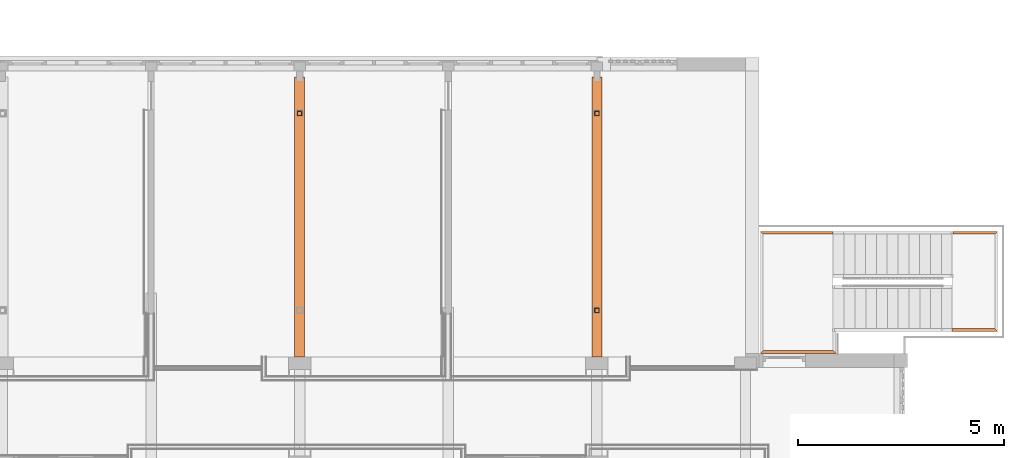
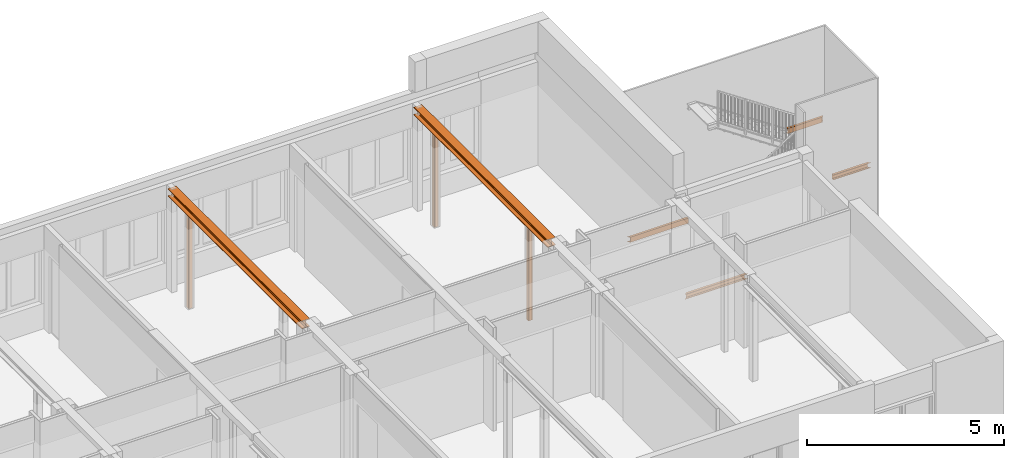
# One storey, part 107 of 117: 9 proxies.
"""IFC2X3 building model written with IfcOpenShell, lengths in millimetres."""

from ifc_helpers import new_model, entity, si_unit, converted_unit, derived_unit, money_unit, direction, frame, origin_with_axes, place, context, subcontext, project, spatial, faceted_brep, source, transform, mapped, material, type_object, type_shapes, element, save


model = new_model("IFC2X3")

# Units and contexts
model_context = context("Model", 3, precision=0.01, world=origin_with_axes(), true_north=direction((0.0, 1.0)))
body_context = subcontext(model_context, "Body", "Model", "MODEL_VIEW")
ifc_project = project(units=[si_unit("LENGTHUNIT", "METRE", prefix="MILLI"), si_unit("AREAUNIT", "SQUARE_METRE"), si_unit("VOLUMEUNIT", "CUBIC_METRE"), converted_unit("PLANEANGLEUNIT", "DEGREE", entity("IfcPlaneAngleMeasure", 0.0174532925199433), si_unit("PLANEANGLEUNIT", "RADIAN"), dimensions=[0, 0, 0, 0, 0, 0, 0]), money_unit("EUR"), converted_unit("TIMEUNIT", "Year", entity("IfcTimeMeasure", 31557600.0), si_unit("TIMEUNIT", "SECOND"), dimensions=[0, 0, 1, 0, 0, 0, 0]), si_unit("MASSUNIT", "GRAM", prefix="KILO"), si_unit("THERMODYNAMICTEMPERATUREUNIT", "DEGREE_CELSIUS"), si_unit("LUMINOUSINTENSITYUNIT", "LUMEN"), si_unit("ENERGYUNIT", "JOULE", prefix="MEGA"), derived_unit("THERMALCONDUCTANCEUNIT", [(si_unit("POWERUNIT", "WATT"), 1), (si_unit("LENGTHUNIT", "METRE"), -1), (si_unit("THERMODYNAMICTEMPERATUREUNIT", "KELVIN"), -1)]), derived_unit("SPECIFICHEATCAPACITYUNIT", [(si_unit("ENERGYUNIT", "JOULE"), 1), (si_unit("MASSUNIT", "GRAM", prefix="KILO"), -1), (si_unit("THERMODYNAMICTEMPERATUREUNIT", "KELVIN"), -1)]), derived_unit("MASSDENSITYUNIT", [(si_unit("MASSUNIT", "GRAM", prefix="KILO"), 1), (si_unit("VOLUMEUNIT", "CUBIC_METRE"), -1)])], contexts=[model_context])

# Site, building, storey
site_placement = place(None, origin_with_axes())
site = spatial("IfcSite", under=ifc_project, at=site_placement, Name="Site", CompositionType="ELEMENT")
building_placement = place(site_placement, origin_with_axes())
building = spatial("IfcBuilding", under=site, at=building_placement, Name="Naam gebouw", CompositionType="ELEMENT")
storey_placement = place(building_placement, frame((0.0, 0.0, 4150.0), z_axis=(0.0, 0.0, 1.0), x_axis=(1.0, 0.0, 0.0)))
storey = spatial("IfcBuildingStorey", under=building, at=storey_placement, Name="1e verdieping N", CompositionType="ELEMENT", Elevation=4150.0)

# Proxies
ifc_material = material(Name="Metaal - Staal AFW")
building_element_proxy_type_1 = type_object("IfcBuildingElementProxyType", Name="UPN balk 27", PredefinedType="NOTDEFINED")
shared_shape_1 = source(origin_with_axes(), body_context, "Body", "Brep", [
    faceted_brep([(0.0, 0.0, 160.0), (32.49999999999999, -32.5, 160.0), (1067.500000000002, -32.50000000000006, 160.0000000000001), (1067.500000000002, 32.49999999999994, 160.0000000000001), (-32.5, 32.5, 160.0), (0.0, 0.0, 149.5), (14.50000000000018, -14.5, 149.5), (19.75000000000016, -19.75, 148.0932667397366), (23.59326673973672, -23.59326673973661, 144.2500000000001), (24.99999999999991, -25.0, 139.0), (24.99999999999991, -25.0, 21.0), (23.59326673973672, -23.59326673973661, 15.75), (19.75000000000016, -19.75, 11.9067332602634), (14.50000000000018, -14.5, 10.49999999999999), (0.0, 0.0, 10.50000000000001), (-27.00000000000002, 27.00000000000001, 10.49999999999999), (-29.75000000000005, 29.75000000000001, 9.763139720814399), (-31.76313972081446, 31.76313972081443, 7.749999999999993), (-32.5, 32.5, 4.99999999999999), (-32.5, 32.5, 0.0), (0.0, 0.0, 0.0), (32.49999999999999, -32.5, 0.0), (-32.5, 32.5, 155.0), (-31.76313972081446, 31.76313972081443, 152.25), (-29.75000000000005, 29.75000000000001, 150.2368602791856), (-27.00000000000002, 27.00000000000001, 149.5), (1067.500000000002, -32.50000000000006, 0.0), (1067.500000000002, 29.74999999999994, 150.2368602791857), (1067.500000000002, 31.76313972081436, 152.2500000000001), (1067.500000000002, 32.49999999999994, 155.0000000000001), (1067.500000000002, 32.49999999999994, 0.0), (1067.500000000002, 32.49999999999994, 5.00000000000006), (1067.500000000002, 31.76313972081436, 7.750000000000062), (1067.500000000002, 29.74999999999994, 9.763139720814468), (1067.500000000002, 26.99999999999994, 10.50000000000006), (1067.500000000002, -14.50000000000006, 10.50000000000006), (1067.500000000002, -19.75000000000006, 11.90673326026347), (1067.500000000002, -23.59326673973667, 15.75000000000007), (1067.500000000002, -25.00000000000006, 21.00000000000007), (1067.500000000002, -25.00000000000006, 139.0000000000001), (1067.500000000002, -23.59326673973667, 144.2500000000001), (1067.500000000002, -19.75000000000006, 148.0932667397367), (1067.500000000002, -14.50000000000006, 149.5000000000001), (1067.500000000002, 26.99999999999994, 149.5000000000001)], [[[0, 1, 2, 3, 4]], [[5, 6, 7, 8, 9, 10, 11, 12, 13, 14, 15, 16, 17, 18, 19, 20, 21, 1, 0, 4, 22, 23, 24, 25]], [[1, 21, 26, 2]], [[27, 28, 29, 3, 2, 26, 30, 31, 32, 33, 34, 35, 36, 37, 38, 39, 40, 41, 42, 43]], [[4, 3, 29, 22]], [[6, 5, 25, 43, 42]], [[7, 6, 42, 41]], [[8, 7, 41, 40]], [[9, 8, 40, 39]], [[10, 9, 39, 38]], [[11, 10, 38, 37]], [[12, 11, 37, 36]], [[13, 12, 36, 35]], [[14, 13, 35, 34, 15]], [[15, 34, 33, 16]], [[16, 33, 32, 17]], [[17, 32, 31, 18]], [[18, 31, 30, 19]], [[21, 20, 19, 30, 26]], [[22, 29, 28, 23]], [[23, 28, 27, 24]], [[24, 27, 43, 25]]]),
])
proxy_1_placement = place(storey_placement, frame((60077.49999999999, 21228.4124251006, 1602.772280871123), z_axis=(0.0, 0.0, 1.0), x_axis=(-1.0, 0.0, 0.0)))
element("IfcBuildingElementProxy", 1, at=proxy_1_placement, inside=storey, type_object=building_element_proxy_type_1, material=ifc_material, Name="_Boom-x", context=body_context, shape_type="MappedRepresentation", body=[
    mapped(shared_shape_1, transform((0.0, 0.0, 0.0))),
])
shared_shape_2 = source(origin_with_axes(), body_context, "Body", "Brep", [
    faceted_brep([(0.0, 0.0, 160.0), (32.49999999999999, 32.5, 160.0), (-1047.5, 32.49999999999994, 160.0000000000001), (-1047.5, -32.50000000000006, 160.0000000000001), (-32.49999999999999, -32.5, 160.0), (0.0, 0.0, 149.5), (27.00000000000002, 27.00000000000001, 149.5), (29.75000000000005, 29.75000000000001, 150.2368602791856), (31.76313972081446, 31.76313972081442, 152.25), (32.49999999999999, 32.5, 155.0), (-32.49999999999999, -32.5, 0.0), (0.0, 0.0, 0.0), (32.49999999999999, 32.5, 0.0), (32.49999999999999, 32.5, 4.99999999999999), (31.76313972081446, 31.76313972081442, 7.749999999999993), (29.75000000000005, 29.75000000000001, 9.763139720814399), (27.00000000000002, 27.00000000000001, 10.49999999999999), (0.0, 0.0, 10.50000000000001), (-14.50000000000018, -14.5, 10.49999999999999), (-19.75000000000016, -19.75, 11.9067332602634), (-23.59326673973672, -23.59326673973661, 15.75), (-24.99999999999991, -25.0, 21.0), (-24.99999999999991, -25.0, 139.0), (-23.59326673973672, -23.59326673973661, 144.2500000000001), (-19.75000000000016, -19.75, 148.0932667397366), (-14.50000000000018, -14.5, 149.5), (-1047.5, 32.49999999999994, 155.0000000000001), (-1047.5, 29.74999999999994, 150.2368602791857), (-1047.5, 26.99999999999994, 149.5000000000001), (-1047.5, -14.50000000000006, 149.5000000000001), (-1047.5, -19.75000000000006, 148.0932667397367), (-1047.5, -23.59326673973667, 144.2500000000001), (-1047.5, -25.00000000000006, 139.0000000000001), (-1047.5, -25.00000000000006, 21.00000000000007), (-1047.5, -23.59326673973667, 15.75000000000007), (-1047.5, -19.75000000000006, 11.90673326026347), (-1047.5, -14.50000000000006, 10.50000000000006), (-1047.5, 26.99999999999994, 10.50000000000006), (-1047.5, 29.74999999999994, 9.763139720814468), (-1047.5, 31.76313972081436, 7.750000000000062), (-1047.5, 32.49999999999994, 5.00000000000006), (-1047.5, 32.49999999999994, 0.0), (-1047.5, -32.50000000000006, 0.0), (-1047.5, 31.76313972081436, 152.2500000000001)], [[[0, 1, 2, 3, 4]], [[5, 6, 7, 8, 9, 1, 0, 4, 10, 11, 12, 13, 14, 15, 16, 17, 18, 19, 20, 21, 22, 23, 24, 25]], [[1, 9, 26, 2]], [[27, 28, 29, 30, 31, 32, 33, 34, 35, 36, 37, 38, 39, 40, 41, 42, 3, 2, 26, 43]], [[4, 3, 42, 10]], [[25, 29, 28, 6, 5]], [[7, 6, 28, 27]], [[8, 7, 27, 43]], [[9, 8, 43, 26]], [[10, 42, 41, 12, 11]], [[13, 12, 41, 40]], [[14, 13, 40, 39]], [[15, 14, 39, 38]], [[16, 15, 38, 37]], [[17, 16, 37, 36, 18]], [[18, 36, 35, 19]], [[19, 35, 34, 20]], [[20, 34, 33, 21]], [[21, 33, 32, 22]], [[22, 32, 31, 23]], [[23, 31, 30, 24]], [[24, 30, 29, 25]]]),
])
proxy_2_placement = place(storey_placement, frame((60077.49999999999, 23583.4124251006, 1602.772280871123), z_axis=(0.0, 0.0, 1.0), x_axis=(1.0, 0.0, 0.0)))
element("IfcBuildingElementProxy", 2, at=proxy_2_placement, inside=storey, type_object=building_element_proxy_type_1, material=ifc_material, Name="_Boom-x", context=body_context, shape_type="MappedRepresentation", body=[
    mapped(shared_shape_2, transform((0.0, 0.0, 0.0))),
])
building_element_proxy_type_2 = type_object("IfcBuildingElementProxyType", Name="HEB balk 27", PredefinedType="NOTDEFINED")
shared_shape_3 = source(origin_with_axes(), body_context, "Body", "Brep", [
    faceted_brep([(0.0, -120.0, 0.0), (-6785.0, -120.0000000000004, 0.0), (-6785.0, 119.9999999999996, 0.0), (0.0, 120.0, 0.0), (0.0, -120.0, 17.0), (-6785.0, -120.0000000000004, 17.00000000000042), (-6785.0, -26.00000000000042, 17.00000000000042), (-6785.0, -15.50000000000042, 19.81346652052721), (-6785.0, -7.813466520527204, 27.50000000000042), (-6785.0, -5.000000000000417, 38.00000000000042), (-6785.0, -5.000000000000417, 202.0000000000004), (-6785.0, -7.813466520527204, 212.5000000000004), (-6785.0, -15.50000000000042, 220.1865334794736), (-6785.0, -26.00000000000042, 223.0000000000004), (-6785.0, -120.0000000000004, 223.0000000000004), (-6785.0, -120.0000000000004, 240.0000000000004), (-6785.0, 119.9999999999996, 240.0000000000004), (-6785.0, 119.9999999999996, 223.0000000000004), (-6785.0, 25.99999999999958, 223.0000000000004), (-6785.0, 15.49999999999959, 220.1865334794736), (-6785.0, 7.813466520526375, 212.5000000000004), (-6785.0, 4.999999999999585, 202.0000000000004), (-6785.0, 4.999999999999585, 38.00000000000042), (-6785.0, 7.813466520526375, 27.50000000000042), (-6785.0, 15.49999999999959, 19.81346652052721), (-6785.0, 25.99999999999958, 17.00000000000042), (-6785.0, 119.9999999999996, 17.00000000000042), (0.0, 120.0, 17.0), (0.0, 26.0, 17.0), (0.0, 15.5, 19.8134665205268), (0.0, 7.81346652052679, 27.5), (0.0, 5.000000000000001, 38.00000000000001), (0.0, 5.000000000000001, 202.0), (0.0, 7.81346652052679, 212.5), (0.0, 15.5, 220.1865334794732), (0.0, 26.0, 223.0), (0.0, 120.0, 223.0), (0.0, 120.0, 240.0), (0.0, -120.0, 240.0), (0.0, -120.0, 223.0), (0.0, -26.0, 223.0), (0.0, -15.5, 220.1865334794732), (0.0, -7.81346652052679, 212.5), (0.0, -5.000000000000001, 202.0), (0.0, -5.000000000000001, 38.00000000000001), (0.0, -7.81346652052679, 27.5), (0.0, -15.5, 19.8134665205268), (0.0, -26.0, 17.0)], [[[0, 1, 2, 3]], [[4, 5, 1, 0]], [[1, 5, 6, 7, 8, 9, 10, 11, 12, 13, 14, 15, 16, 17, 18, 19, 20, 21, 22, 23, 24, 25, 26, 2]], [[3, 2, 26, 27]], [[0, 3, 27, 28, 29, 30, 31, 32, 33, 34, 35, 36, 37, 38, 39, 40, 41, 42, 43, 44, 45, 46, 47, 4]], [[47, 6, 5, 4]], [[46, 7, 6, 47]], [[45, 8, 7, 46]], [[44, 9, 8, 45]], [[43, 10, 9, 44]], [[42, 11, 10, 43]], [[41, 12, 11, 42]], [[40, 13, 12, 41]], [[39, 14, 13, 40]], [[38, 15, 14, 39]], [[37, 16, 15, 38]], [[36, 17, 16, 37]], [[35, 18, 17, 36]], [[34, 19, 18, 35]], [[33, 20, 19, 34]], [[32, 21, 20, 33]], [[31, 22, 21, 32]], [[30, 23, 22, 31]], [[29, 24, 23, 30]], [[28, 25, 24, 29]], [[27, 26, 25, 28]]]),
])
type_shapes(building_element_proxy_type_2, [shared_shape_3])
for number, where, z_axis, x_axis, name in (
    (3, (43199.99999999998, 20580.91242510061, 2940.000000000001), (0.0, 0.0, 1.0), (0.0, -1.0, 0.0), "_Boom-x"),
    (4, (50399.99999999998, 20580.91242510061, 2940.0), (0.0, 0.0, 1.0), (0.0, -1.0, 0.0), "_Boom-x"),
):
    element("IfcBuildingElementProxy", number, at=place(storey_placement, frame(where, z_axis=z_axis, x_axis=x_axis)), inside=storey, type_object=building_element_proxy_type_2, material=ifc_material, Name=name, context=body_context, shape_type="MappedRepresentation", body=[
        mapped(shared_shape_3, transform((0.0, 0.0, 0.0))),
    ])
shared_shape_4 = source(origin_with_axes(), body_context, "Body", "Brep", [
    faceted_brep([(-1737.152777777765, -32.50000000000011, 160.0000000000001), (-32.49999999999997, -32.5, 160.0), (32.49999999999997, 32.5, 160.0), (-1802.152777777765, 32.49999999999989, 160.0000000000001), (-1769.652777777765, 0.0, 160.0000000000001), (-1737.152777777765, -32.50000000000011, 0.0), (-32.49999999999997, -32.5, 0.0), (32.49999999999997, 32.5, 0.0), (32.49999999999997, 32.5, 4.999999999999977), (31.76313972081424, 31.76313972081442, 7.749999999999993), (29.74999999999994, 29.75000000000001, 9.763139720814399), (26.99999999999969, 27.00000000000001, 10.49999999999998), (-14.49999999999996, -14.5, 10.50000000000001), (-19.75000000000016, -19.75, 11.9067332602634), (-23.59326673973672, -23.59326673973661, 15.75000000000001), (-24.99999999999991, -25.0, 21.0), (-24.99999999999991, -25.0, 139.0), (-23.59326673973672, -23.59326673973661, 144.25), (-19.75000000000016, -19.75, 148.0932667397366), (-14.49999999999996, -14.5, 149.5), (26.99999999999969, 27.00000000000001, 149.5), (29.74999999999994, 29.75000000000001, 150.2368602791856), (31.76313972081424, 31.76313972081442, 152.25), (32.49999999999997, 32.5, 155.0), (-1802.152777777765, 32.49999999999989, 155.0000000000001), (-1769.652777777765, 0.0, 10.50000000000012), (-1796.652777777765, 26.9999999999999, 10.50000000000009), (-1799.402777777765, 29.7499999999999, 9.76313972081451), (-1801.415917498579, 31.76313972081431, 7.750000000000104), (-1802.152777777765, 32.49999999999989, 5.000000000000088), (-1802.152777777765, 32.49999999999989, 0.0), (-1769.652777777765, 0.0, 0.0), (-1801.415917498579, 31.76313972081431, 152.2500000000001), (-1799.402777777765, 29.7499999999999, 150.2368602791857), (-1796.652777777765, 26.9999999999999, 149.5000000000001), (-1769.652777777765, 0.0, 149.5000000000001), (-1755.152777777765, -14.50000000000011, 149.5000000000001), (-1749.902777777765, -19.7500000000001, 148.0932667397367), (-1746.059511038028, -23.59326673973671, 144.2500000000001), (-1744.652777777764, -25.00000000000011, 139.0000000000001), (-1744.652777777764, -25.00000000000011, 21.00000000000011), (-1746.059511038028, -23.59326673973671, 15.75000000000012), (-1749.902777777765, -19.7500000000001, 11.90673326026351), (-1755.152777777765, -14.50000000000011, 10.50000000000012)], [[[0, 1, 2, 3, 4]], [[5, 6, 1, 0]], [[1, 6, 7, 8, 9, 10, 11, 12, 13, 14, 15, 16, 17, 18, 19, 20, 21, 22, 23, 2]], [[24, 3, 2, 23]], [[25, 26, 27, 28, 29, 30, 31, 5, 0, 4, 3, 24, 32, 33, 34, 35, 36, 37, 38, 39, 40, 41, 42, 43]], [[31, 30, 7, 6, 5]], [[30, 29, 8, 7]], [[29, 28, 9, 8]], [[28, 27, 10, 9]], [[27, 26, 11, 10]], [[43, 12, 11, 26, 25]], [[42, 13, 12, 43]], [[41, 14, 13, 42]], [[40, 15, 14, 41]], [[39, 16, 15, 40]], [[38, 17, 16, 39]], [[37, 18, 17, 38]], [[36, 19, 18, 37]], [[35, 34, 20, 19, 36]], [[34, 33, 21, 20]], [[33, 32, 22, 21]], [[32, 24, 23, 22]]]),
])
proxy_3_placement = place(storey_placement, frame((54397.49999999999, 20698.4124251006, -147.3000000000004), z_axis=(0.0, 0.0, 1.0), x_axis=(-1.0, 0.0, 0.0)))
element("IfcBuildingElementProxy", 5, at=proxy_3_placement, inside=storey, type_object=building_element_proxy_type_1, material=ifc_material, Name="_Boom-x", context=body_context, shape_type="MappedRepresentation", body=[
    mapped(shared_shape_4, transform((0.0, 0.0, 0.0))),
])
shared_shape_5 = source(origin_with_axes(), body_context, "Body", "Brep", [
    faceted_brep([(0.0, 0.0, 160.0), (32.49999999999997, -32.5, 160.0), (1727.152777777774, -32.50000000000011, 160.0000000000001), (1727.152777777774, 32.49999999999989, 160.0000000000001), (-32.49999999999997, 32.5, 160.0), (0.0, 0.0, 149.5), (14.49999999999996, -14.5, 149.5), (19.74999999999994, -19.75, 148.0932667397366), (23.5932667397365, -23.59326673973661, 144.2500000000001), (24.99999999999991, -25.0, 139.0), (24.99999999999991, -25.0, 21.0), (23.5932667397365, -23.59326673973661, 15.75000000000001), (19.74999999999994, -19.75, 11.9067332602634), (14.49999999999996, -14.5, 10.49999999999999), (0.0, 0.0, 10.50000000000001), (-26.99999999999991, 27.00000000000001, 10.49999999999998), (-29.74999999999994, 29.75000000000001, 9.763139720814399), (-31.76313972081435, 31.76313972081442, 7.749999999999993), (-32.49999999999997, 32.5, 4.999999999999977), (-32.49999999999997, 32.5, 0.0), (0.0, 0.0, 0.0), (32.49999999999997, -32.5, 0.0), (-32.49999999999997, 32.5, 155.0), (-31.76313972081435, 31.76313972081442, 152.25), (-29.74999999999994, 29.75000000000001, 150.2368602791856), (-26.99999999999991, 27.00000000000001, 149.5), (1727.152777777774, -32.50000000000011, 0.0), (1727.152777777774, 29.7499999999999, 150.2368602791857), (1727.152777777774, 31.76313972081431, 152.2500000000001), (1727.152777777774, 32.49999999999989, 155.0000000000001), (1727.152777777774, 32.49999999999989, 0.0), (1727.152777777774, 32.49999999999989, 5.000000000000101), (1727.152777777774, 31.76313972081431, 7.750000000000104), (1727.152777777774, 29.7499999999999, 9.76313972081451), (1727.152777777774, 26.9999999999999, 10.50000000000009), (1727.152777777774, -14.5000000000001, 10.50000000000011), (1727.152777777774, -19.7500000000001, 11.90673326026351), (1727.152777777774, -23.59326673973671, 15.75000000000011), (1727.152777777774, -25.00000000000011, 21.00000000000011), (1727.152777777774, -25.00000000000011, 139.0000000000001), (1727.152777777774, -23.59326673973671, 144.2500000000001), (1727.152777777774, -19.7500000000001, 148.0932667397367), (1727.152777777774, -14.5000000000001, 149.5000000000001), (1727.152777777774, 26.9999999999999, 149.5000000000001)], [[[0, 1, 2, 3, 4]], [[5, 6, 7, 8, 9, 10, 11, 12, 13, 14, 15, 16, 17, 18, 19, 20, 21, 1, 0, 4, 22, 23, 24, 25]], [[1, 21, 26, 2]], [[27, 28, 29, 3, 2, 26, 30, 31, 32, 33, 34, 35, 36, 37, 38, 39, 40, 41, 42, 43]], [[4, 3, 29, 22]], [[6, 5, 25, 43, 42]], [[7, 6, 42, 41]], [[8, 7, 41, 40]], [[9, 8, 40, 39]], [[10, 9, 39, 38]], [[11, 10, 38, 37]], [[12, 11, 37, 36]], [[13, 12, 36, 35]], [[14, 13, 35, 34, 15]], [[15, 34, 33, 16]], [[16, 33, 32, 17]], [[17, 32, 31, 18]], [[18, 31, 30, 19]], [[21, 20, 19, 30, 26]], [[22, 29, 28, 23]], [[23, 28, 27, 24]], [[24, 27, 43, 25]]]),
])
type_shapes(building_element_proxy_type_1, [shared_shape_1, shared_shape_2, shared_shape_4, shared_shape_5])
proxy_4_placement = place(storey_placement, frame((54397.49999999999, 23583.4124251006, -147.3000000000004), z_axis=(0.0, 0.0, 1.0), x_axis=(1.0, 0.0, 0.0)))
element("IfcBuildingElementProxy", 6, at=proxy_4_placement, inside=storey, type_object=building_element_proxy_type_1, material=ifc_material, Name="_Boom-x", context=body_context, shape_type="MappedRepresentation", body=[
    mapped(shared_shape_5, transform((0.0, 0.0, 0.0))),
])
building_element_proxy_type_3 = type_object("IfcBuildingElementProxyType", Name="Buis vk warmgew kolom 27", PredefinedType="NOTDEFINED")
shared_shape_6 = source(origin_with_axes(), body_context, "Body", "Brep", [
    faceted_brep([(47.4, -60.0, 0.0), (47.4, -60.0, 2940.000000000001), (-47.4, -60.0, 2940.000000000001), (-47.4, -60.0, 0.0), (56.3095454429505, -56.3095454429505, 0.0), (56.3095454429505, -56.3095454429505, 2940.000000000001), (60.0, -47.4, 2940.000000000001), (60.0, 47.4, 2940.000000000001), (56.3095454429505, 56.3095454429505, 2940.000000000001), (47.4, 60.0, 2940.000000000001), (-47.4, 60.0, 2940.000000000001), (-56.3095454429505, 56.3095454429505, 2940.000000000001), (-60.0, 47.4, 2940.000000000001), (-60.0, -47.4, 2940.000000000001), (-56.3095454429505, -56.3095454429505, 2940.000000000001), (47.4, -53.7, 2940.000000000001), (-47.4, -53.7, 2940.000000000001), (-51.85477272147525, -51.85477272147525, 2940.000000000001), (-53.7, -47.4, 2940.000000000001), (-53.7, 47.4, 2940.000000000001), (-51.85477272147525, 51.85477272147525, 2940.000000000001), (-47.4, 53.7, 2940.000000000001), (47.4, 53.7, 2940.000000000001), (51.85477272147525, 51.85477272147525, 2940.000000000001), (53.7, 47.4, 2940.000000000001), (53.7, -47.4, 2940.000000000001), (51.85477272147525, -51.85477272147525, 2940.000000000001), (-56.3095454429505, -56.3095454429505, 0.0), (-60.0, -47.4, 0.0), (-60.0, 47.4, 0.0), (-56.3095454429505, 56.3095454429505, 0.0), (-47.4, 60.0, 0.0), (47.4, 60.0, 0.0), (56.3095454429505, 56.3095454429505, 0.0), (60.0, 47.4, 0.0), (60.0, -47.4, 0.0), (47.4, -53.7, 0.0), (51.85477272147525, -51.85477272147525, 0.0), (53.7, -47.4, 0.0), (53.7, 47.4, 0.0), (51.85477272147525, 51.85477272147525, 0.0), (47.4, 53.7, 0.0), (-47.4, 53.7, 0.0), (-51.85477272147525, 51.85477272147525, 0.0), (-53.7, 47.4, 0.0), (-53.7, -47.4, 0.0), (-51.85477272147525, -51.85477272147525, 0.0), (-47.4, -53.7, 0.0)], [[[0, 1, 2, 3]], [[4, 5, 1, 0]], [[1, 5, 6, 7, 8, 9, 10, 11, 12, 13, 14, 2], [15, 16, 17, 18, 19, 20, 21, 22, 23, 24, 25, 26]], [[3, 2, 14, 27]], [[0, 3, 27, 28, 29, 30, 31, 32, 33, 34, 35, 4], [36, 37, 38, 39, 40, 41, 42, 43, 44, 45, 46, 47]], [[35, 6, 5, 4]], [[34, 7, 6, 35]], [[33, 8, 7, 34]], [[32, 9, 8, 33]], [[31, 10, 9, 32]], [[30, 11, 10, 31]], [[29, 12, 11, 30]], [[28, 13, 12, 29]], [[27, 14, 13, 28]], [[47, 16, 15, 36]], [[46, 17, 16, 47]], [[45, 18, 17, 46]], [[44, 19, 18, 45]], [[43, 20, 19, 44]], [[42, 21, 20, 43]], [[41, 22, 21, 42]], [[40, 23, 22, 41]], [[39, 24, 23, 40]], [[38, 25, 24, 39]], [[37, 26, 25, 38]], [[36, 15, 26, 37]]]),
])
type_shapes(building_element_proxy_type_3, [shared_shape_6])
for number, where, z_axis, x_axis, name in (
    (7, (43199.99999999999, 26480.91242510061, 0.0), (0.0, 0.0, 1.0), (0.0, -1.0, 0.0), "_Boom-x"),
    (8, (50400.0, 21705.91242510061, 0.0), (0.0, 0.0, 1.0), (0.0, -1.0, 0.0), "_Boom-x"),
    (9, (50400.0, 26480.91242510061, 0.0), (0.0, 0.0, 1.0), (0.0, -1.0, 0.0), "_Boom-x"),
):
    element("IfcBuildingElementProxy", number, at=place(storey_placement, frame(where, z_axis=z_axis, x_axis=x_axis)), inside=storey, type_object=building_element_proxy_type_3, material=ifc_material, Name=name, context=body_context, shape_type="MappedRepresentation", body=[
        mapped(shared_shape_6, transform((0.0, 0.0, 0.0))),
    ])

save(model, "model.ifc")
